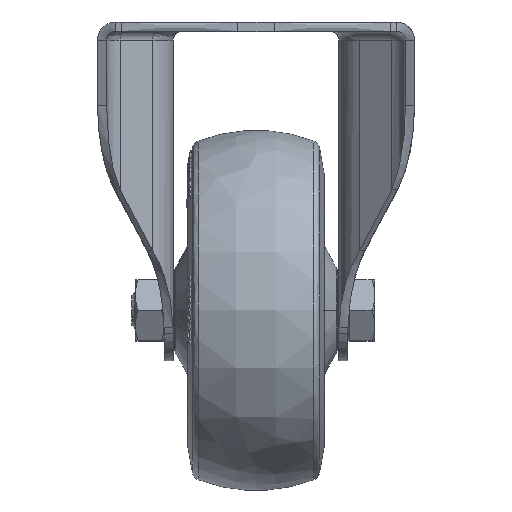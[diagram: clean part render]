
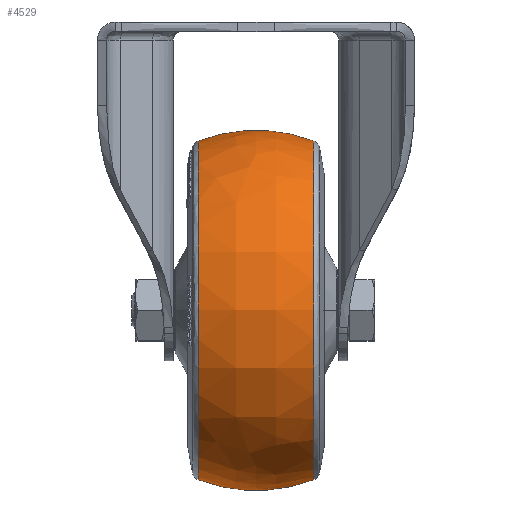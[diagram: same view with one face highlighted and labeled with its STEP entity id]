
A CAD part, top view. The second image highlights one B-rep face of the part: STEP entity #4529.
In plain terms, the highlighted free-form (B-spline) face has degree [3, 3] with [4, 4] control points.
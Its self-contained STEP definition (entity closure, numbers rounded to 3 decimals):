
#562 =( BOUNDED_SURFACE ( )  B_SPLINE_SURFACE ( 3, 3, ( 
 ( #9837, #9812, #9829, #9839 ),
 ( #9840, #9841, #9842, #9843 ),
 ( #9844, #9845, #9846, #9847 ),
 ( #9848, #9849, #9850, #9851 ) ),
 .UNSPECIFIED., .F., .F., .T. ) 
 B_SPLINE_SURFACE_WITH_KNOTS ( ( 4, 4 ),
 ( 4, 4 ),
 ( 0., 1. ),
 ( 0., 1. ),
 .UNSPECIFIED. ) 
 GEOMETRIC_REPRESENTATION_ITEM ( )  RATIONAL_B_SPLINE_SURFACE ( (
 ( 1., 0.333, 0.333, 1.),
 ( 0.956, 0.319, 0.319, 0.956),
 ( 0.956, 0.319, 0.319, 0.956),
 ( 1., 0.333, 0.333, 1.) ) ) 
 REPRESENTATION_ITEM ( '' )  SURFACE ( )  );
#4529 = ADVANCED_FACE ( 'NONE', ( #31484 ), #562, .T. ) ;
#7477 = CIRCLE ( 'NONE', #28695, 45. ) ;
#7479 = CIRCLE ( 'NONE', #28692, 47.026 ) ;
#7483 = CIRCLE ( 'NONE', #28697, 47.026 ) ;
#7549 = CIRCLE ( 'NONE', #28698, 45. ) ;
#9812 = CARTESIAN_POINT ( 'NONE',  ( 16.087, 47.026, 94.052 ) ) ;
#9829 = CARTESIAN_POINT ( 'NONE',  ( 16.087, -47.026, 94.052 ) ) ;
#9837 = CARTESIAN_POINT ( 'NONE',  ( 16.087, 47.026, 0. ) ) ;
#9839 = CARTESIAN_POINT ( 'NONE',  ( 16.087, -47.026, 0. ) ) ;
#9840 = CARTESIAN_POINT ( 'NONE',  ( 5.61, 51.037, 0. ) ) ;
#9841 = CARTESIAN_POINT ( 'NONE',  ( 5.61, 51.037, 102.074 ) ) ;
#9842 = CARTESIAN_POINT ( 'NONE',  ( 5.61, -51.037, 102.074 ) ) ;
#9843 = CARTESIAN_POINT ( 'NONE',  ( 5.61, -51.037, 0. ) ) ;
#9844 = CARTESIAN_POINT ( 'NONE',  ( -5.61, 51.037, 0. ) ) ;
#9845 = CARTESIAN_POINT ( 'NONE',  ( -5.61, 51.037, 102.074 ) ) ;
#9846 = CARTESIAN_POINT ( 'NONE',  ( -5.61, -51.037, 102.074 ) ) ;
#9847 = CARTESIAN_POINT ( 'NONE',  ( -5.61, -51.037, 0. ) ) ;
#9848 = CARTESIAN_POINT ( 'NONE',  ( -16.087, 47.026, 0. ) ) ;
#9849 = CARTESIAN_POINT ( 'NONE',  ( -16.087, 47.026, 94.052 ) ) ;
#9850 = CARTESIAN_POINT ( 'NONE',  ( -16.087, -47.026, 94.052 ) ) ;
#9851 = CARTESIAN_POINT ( 'NONE',  ( -16.087, -47.026, 0. ) ) ;
#11744 = EDGE_LOOP ( 'NONE', ( #35947, #35948, #35946, #35945 ) ) ;
#28692 = AXIS2_PLACEMENT_3D ( 'NONE', #46379, #46380, #46381 ) ;
#28695 = AXIS2_PLACEMENT_3D ( 'NONE', #46371, #46377, #46378 ) ;
#28697 = AXIS2_PLACEMENT_3D ( 'NONE', #46384, #46386, #46387 ) ;
#28698 = AXIS2_PLACEMENT_3D ( 'NONE', #46550, #46551, #46552 ) ;
#31484 = FACE_OUTER_BOUND ( 'NONE', #11744, .T. ) ;
#35945 = ORIENTED_EDGE ( 'NONE', *, *, #44860, .F. ) ;
#35946 = ORIENTED_EDGE ( 'NONE', *, *, #44861, .T. ) ;
#35947 = ORIENTED_EDGE ( 'NONE', *, *, #44863, .T. ) ;
#35948 = ORIENTED_EDGE ( 'NONE', *, *, #44907, .T. ) ;
#44860 = EDGE_CURVE ( 'NONE', #59135, #59136, #7477, .T. ) ;
#44861 = EDGE_CURVE ( 'NONE', #59133, #59136, #7479, .T. ) ;
#44863 = EDGE_CURVE ( 'NONE', #59135, #59134, #7483, .T. ) ;
#44907 = EDGE_CURVE ( 'NONE', #59134, #59133, #7549, .T. ) ;
#46371 = CARTESIAN_POINT ( 'NONE',  ( 0., -5., 0. ) ) ;
#46377 = DIRECTION ( 'NONE',  ( 0., 0., -1. ) ) ;
#46378 = DIRECTION ( 'NONE',  ( 0., -1., 0. ) ) ;
#46379 = CARTESIAN_POINT ( 'NONE',  ( -16.087, 0., 0. ) ) ;
#46380 = DIRECTION ( 'NONE',  ( 1., 0., 0. ) ) ;
#46381 = DIRECTION ( 'NONE',  ( 0., -1., 0. ) ) ;
#46384 = CARTESIAN_POINT ( 'NONE',  ( 16.087, 0., 0. ) ) ;
#46386 = DIRECTION ( 'NONE',  ( -1., 0., 0. ) ) ;
#46387 = DIRECTION ( 'NONE',  ( 0., -1., 0. ) ) ;
#46550 = CARTESIAN_POINT ( 'NONE',  ( 0., 5., 0. ) ) ;
#46551 = DIRECTION ( 'NONE',  ( 0., 0., 1. ) ) ;
#46552 = DIRECTION ( 'NONE',  ( 0., 1., 0. ) ) ;
#51617 = CARTESIAN_POINT ( 'NONE',  ( -16.087, 47.026, 0. ) ) ;
#51618 = CARTESIAN_POINT ( 'NONE',  ( 16.087, 47.026, 0. ) ) ;
#51619 = CARTESIAN_POINT ( 'NONE',  ( 16.087, -47.026, 0. ) ) ;
#51620 = CARTESIAN_POINT ( 'NONE',  ( -16.087, -47.026, 0. ) ) ;
#59133 = VERTEX_POINT ( 'NONE', #51617 ) ;
#59134 = VERTEX_POINT ( 'NONE', #51618 ) ;
#59135 = VERTEX_POINT ( 'NONE', #51619 ) ;
#59136 = VERTEX_POINT ( 'NONE', #51620 ) ;
